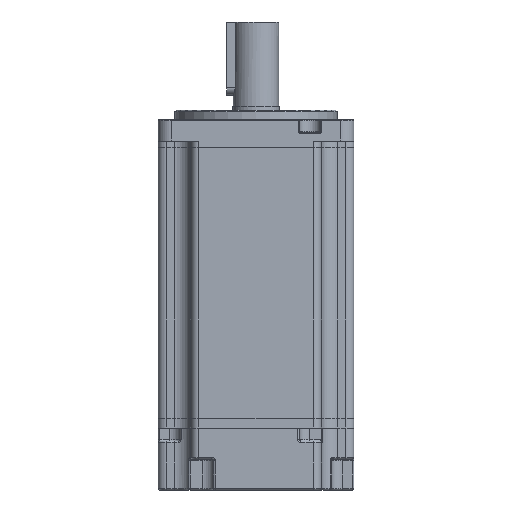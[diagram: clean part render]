
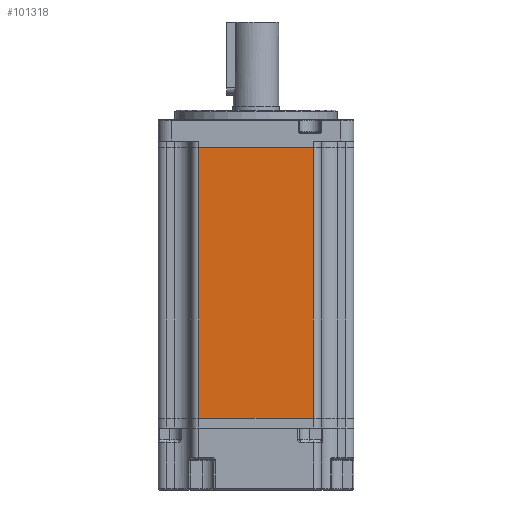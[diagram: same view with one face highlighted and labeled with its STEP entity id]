
A CAD part, front view. The second image highlights one B-rep face of the part: STEP entity #101318.
In plain terms, the highlighted planar face has unit normal (0, -1, 0).
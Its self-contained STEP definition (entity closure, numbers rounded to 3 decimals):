
#876 = EDGE_LOOP ( 'NONE', ( #9370, #31242, #44257, #37373 ) ) ;
#1244 = VECTOR ( 'NONE', #123243, 1000. ) ;
#7730 = CARTESIAN_POINT ( 'NONE',  ( 17.55, -30., 83. ) ) ;
#9370 = ORIENTED_EDGE ( 'NONE', *, *, #118600, .T. ) ;
#11538 = CARTESIAN_POINT ( 'NONE',  ( 17.55, -30., 83. ) ) ;
#13793 = VERTEX_POINT ( 'NONE', #113673 ) ;
#17483 = AXIS2_PLACEMENT_3D ( 'NONE', #11538, #40979, #79967 ) ;
#23266 = EDGE_CURVE ( 'NONE', #74493, #101452, #27599, .T. ) ;
#27330 = VERTEX_POINT ( 'NONE', #120904 ) ;
#27599 = LINE ( 'NONE', #112012, #1244 ) ;
#28231 = CARTESIAN_POINT ( 'NONE',  ( 17.55, -30., 83. ) ) ;
#31242 = ORIENTED_EDGE ( 'NONE', *, *, #23266, .F. ) ;
#35677 = FACE_OUTER_BOUND ( 'NONE', #876, .T. ) ;
#37373 = ORIENTED_EDGE ( 'NONE', *, *, #82033, .T. ) ;
#40979 = DIRECTION ( 'NONE',  ( 0., 1., 0. ) ) ;
#43146 = EDGE_CURVE ( 'NONE', #27330, #74493, #89726, .T. ) ;
#44257 = ORIENTED_EDGE ( 'NONE', *, *, #43146, .F. ) ;
#56293 = CARTESIAN_POINT ( 'NONE',  ( 17.55, -30., 0. ) ) ;
#72767 = LINE ( 'NONE', #118183, #111662 ) ;
#74493 = VERTEX_POINT ( 'NONE', #28231 ) ;
#78766 = DIRECTION ( 'NONE',  ( 0., 0., -1. ) ) ;
#79967 = DIRECTION ( 'NONE',  ( 0., 0., 1. ) ) ;
#80806 = PLANE ( 'NONE',  #17483 ) ;
#82033 = EDGE_CURVE ( 'NONE', #27330, #13793, #72767, .T. ) ;
#89726 = LINE ( 'NONE', #7730, #99022 ) ;
#97710 = DIRECTION ( 'NONE',  ( 1., 0., 0. ) ) ;
#99022 = VECTOR ( 'NONE', #97710, 1000. ) ;
#101318 = ADVANCED_FACE ( 'NONE', ( #35677 ), #80806, .F. ) ;
#101452 = VERTEX_POINT ( 'NONE', #120204 ) ;
#111662 = VECTOR ( 'NONE', #78766, 1000. ) ;
#112012 = CARTESIAN_POINT ( 'NONE',  ( 17.55, -30., 83. ) ) ;
#112419 = LINE ( 'NONE', #56293, #124820 ) ;
#113673 = CARTESIAN_POINT ( 'NONE',  ( -17.55, -30., 0. ) ) ;
#118183 = CARTESIAN_POINT ( 'NONE',  ( -17.55, -30., 83. ) ) ;
#118600 = EDGE_CURVE ( 'NONE', #13793, #101452, #112419, .T. ) ;
#120204 = CARTESIAN_POINT ( 'NONE',  ( 17.55, -30., 0. ) ) ;
#120904 = CARTESIAN_POINT ( 'NONE',  ( -17.55, -30., 83. ) ) ;
#123243 = DIRECTION ( 'NONE',  ( 0., 0., -1. ) ) ;
#124820 = VECTOR ( 'NONE', #125560, 1000. ) ;
#125560 = DIRECTION ( 'NONE',  ( 1., 0., 0. ) ) ;
